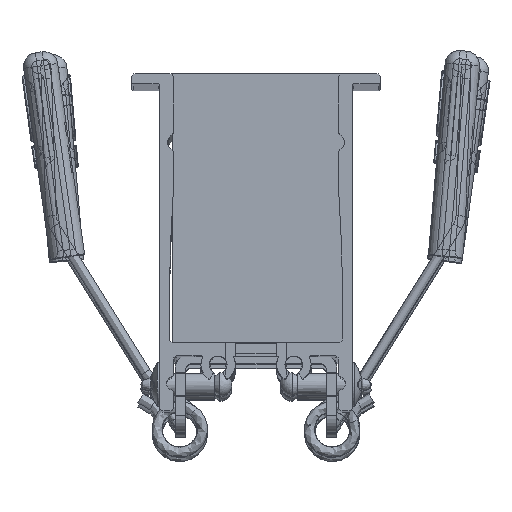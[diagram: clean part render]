
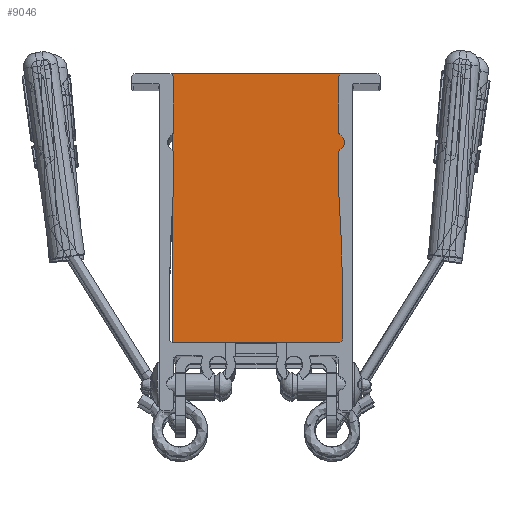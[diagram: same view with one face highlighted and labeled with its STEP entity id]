
A CAD part, top view. The second image highlights one B-rep face of the part: STEP entity #9046.
In plain terms, the highlighted planar face has unit normal (0, 0, 1) as drawn and (0, -1, 0) by its records, which use the part's own axes.
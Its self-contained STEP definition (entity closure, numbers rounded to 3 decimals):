
#386=PLANE('',#10131);
#1169=LINE('',#17651,#1792);
#1177=LINE('',#17667,#1800);
#1178=LINE('',#17669,#1801);
#1179=LINE('',#17670,#1802);
#1792=VECTOR('',#12767,1000.);
#1800=VECTOR('',#12779,1000.);
#1801=VECTOR('',#12782,1000.);
#1802=VECTOR('',#12783,1000.);
#4425=ORIENTED_EDGE('',*,*,#5752,.F.);
#4426=ORIENTED_EDGE('',*,*,#5751,.F.);
#4427=ORIENTED_EDGE('',*,*,#5753,.T.);
#4428=ORIENTED_EDGE('',*,*,#5743,.T.);
#5743=EDGE_CURVE('',#6593,#6591,#1169,.T.);
#5751=EDGE_CURVE('',#6598,#6597,#1177,.T.);
#5752=EDGE_CURVE('',#6597,#6591,#1178,.T.);
#5753=EDGE_CURVE('',#6598,#6593,#1179,.T.);
#6591=VERTEX_POINT('',#17649);
#6593=VERTEX_POINT('',#17652);
#6597=VERTEX_POINT('',#17664);
#6598=VERTEX_POINT('',#17666);
#7674=EDGE_LOOP('',(#4425,#4426,#4427,#4428));
#8258=FACE_BOUND('',#7674,.T.);
#9046=ADVANCED_FACE('',(#8258),#386,.T.);
#10131=AXIS2_PLACEMENT_3D('',#17668,#12780,#12781);
#12767=DIRECTION('',(0.,0.,-1.));
#12779=DIRECTION('',(0.,0.,-1.));
#12780=DIRECTION('',(0.,-1.,0.));
#12781=DIRECTION('',(0.,0.,-1.));
#12782=DIRECTION('',(-1.,0.,0.));
#12783=DIRECTION('',(-1.,0.,0.));
#17649=CARTESIAN_POINT('',(-12.5,-726.,0.));
#17651=CARTESIAN_POINT('',(-12.5,-726.,39.));
#17652=CARTESIAN_POINT('',(-12.5,-726.,39.));
#17664=CARTESIAN_POINT('',(12.5,-726.,0.));
#17666=CARTESIAN_POINT('',(12.5,-726.,39.));
#17667=CARTESIAN_POINT('',(12.5,-726.,39.));
#17668=CARTESIAN_POINT('',(12.5,-726.,39.));
#17669=CARTESIAN_POINT('',(12.5,-726.,0.));
#17670=CARTESIAN_POINT('',(12.5,-726.,39.));
